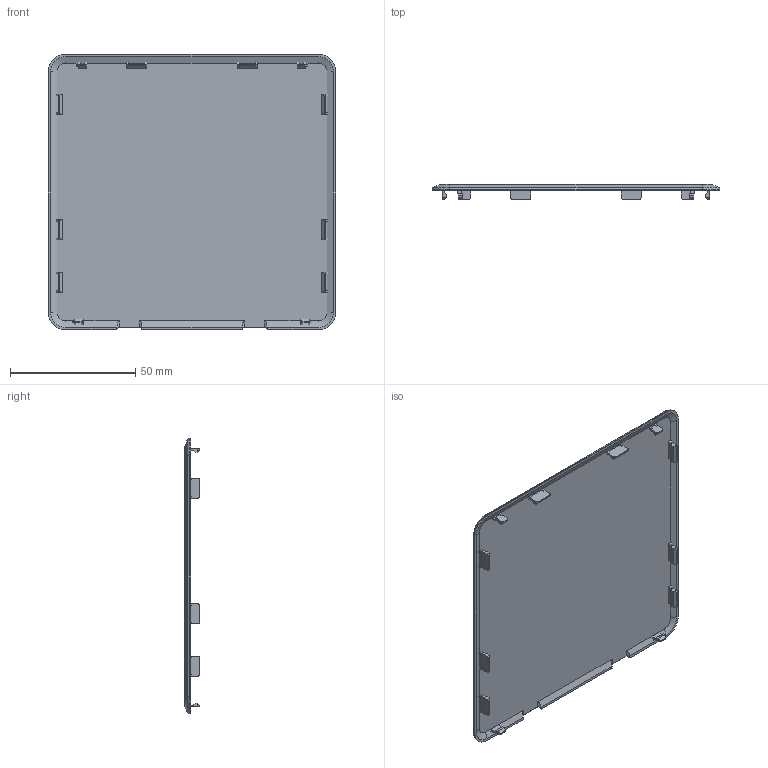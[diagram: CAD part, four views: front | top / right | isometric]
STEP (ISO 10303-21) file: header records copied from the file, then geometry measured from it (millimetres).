
FILE_DESCRIPTION((''),'2;1');
FILE_NAME('TN_TOP_COVER','2023-01-30T11:53:40',('Daniel_Den'),(''),'CREO PARAMETRIC BY PTC INC, 2020184','CREO PARAMETRIC BY PTC INC, 2020184','');
FILE_SCHEMA(('AUTOMOTIVE_DESIGN { 1 0 10303 214 1 1 1 1 }'));
Length unit declared in the file: millimetre
Products named in the file (1): TN_TOP_COVER
Bounding box: 115 x 6.1 x 110 mm (x, y, z)
Volume: 19019.6 mm3; surface area: 26622 mm2
Topology: 1 solids, 1 shells, 284 faces, 1078 edges, 798 vertices
Faces by surface type: plane 208, cylinder 44, bspline 28, cone 4
Entity records: 17253 total; most frequent: CARTESIAN_POINT 4696, DIRECTION 1621, ORIENTED_EDGE 1600, PRESENTATION_STYLE_ASSIGNMENT 1085, CURVE_STYLE 1082, STYLED_ITEM 1081, VECTOR 928, LINE 928
